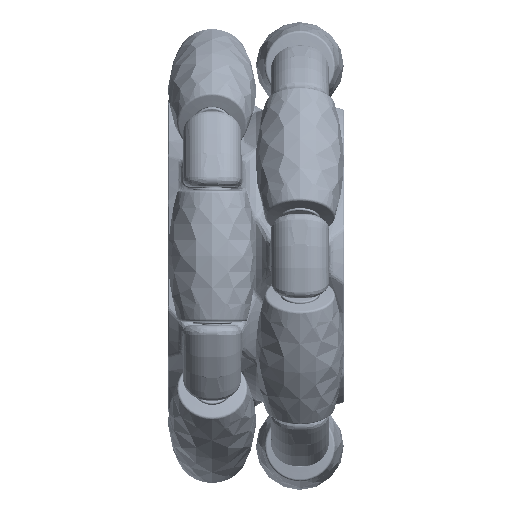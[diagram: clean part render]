
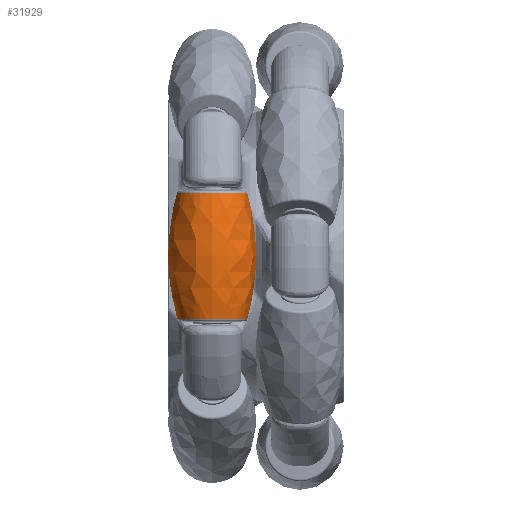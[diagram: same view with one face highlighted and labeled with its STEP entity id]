
A CAD part, left-side view. The second image highlights one B-rep face of the part: STEP entity #31929.
In plain terms, the highlighted free-form (B-spline) face has degree [2, 2] with [3, 9] control points.
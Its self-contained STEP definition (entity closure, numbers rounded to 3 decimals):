
#102=(
BOUNDED_SURFACE()
B_SPLINE_SURFACE(2,2,((#70117,#70118,#70119,#70120,#70121,#70122,#70123,
#70124,#70125),(#70126,#70127,#70128,#70129,#70130,#70131,#70132,#70133,
#70134),(#70135,#70136,#70137,#70138,#70139,#70140,#70141,#70142,#70143)),
 .UNSPECIFIED.,.F.,.T.,.F.)
B_SPLINE_SURFACE_WITH_KNOTS((3,3),(3,2,2,2,3),(-0.275,0.275),
(-3.142,-1.571,0.,1.571,3.142),
 .UNSPECIFIED.)
GEOMETRIC_REPRESENTATION_ITEM()
RATIONAL_B_SPLINE_SURFACE(((1.,0.707,1.,0.707,1.,
0.707,1.,0.707,1.),(0.963,0.681,
0.963,0.681,0.963,0.681,0.963,
0.681,0.963),(1.,0.707,1.,0.707,
1.,0.707,1.,0.707,1.)))
REPRESENTATION_ITEM('')
SURFACE()
);
#7102=FACE_OUTER_BOUND('',#9043,.T.);
#9043=EDGE_LOOP('',(#29483,#29484,#29485,#29486));
#12110=CIRCLE('',#35186,3.6);
#12134=CIRCLE('',#35225,3.6);
#12136=CIRCLE('',#35227,24.);
#15182=VERTEX_POINT('',#70052);
#15198=VERTEX_POINT('',#70114);
#19946=EDGE_CURVE('',#15182,#15182,#12110,.T.);
#19977=EDGE_CURVE('',#15198,#15198,#12134,.T.);
#19979=EDGE_CURVE('',#15182,#15198,#12136,.T.);
#29483=ORIENTED_EDGE('',*,*,#19946,.F.);
#29484=ORIENTED_EDGE('',*,*,#19979,.T.);
#29485=ORIENTED_EDGE('',*,*,#19977,.T.);
#29486=ORIENTED_EDGE('',*,*,#19979,.F.);
#31929=ADVANCED_FACE('',(#7102),#102,.F.);
#35186=AXIS2_PLACEMENT_3D('',#70053,#43272,#43273);
#35225=AXIS2_PLACEMENT_3D('',#70115,#43357,#43358);
#35227=AXIS2_PLACEMENT_3D('',#70144,#43361,#43362);
#43272=DIRECTION('center_axis',(1.,0.,0.));
#43273=DIRECTION('ref_axis',(0.,0.,-1.));
#43357=DIRECTION('center_axis',(1.,0.,0.));
#43358=DIRECTION('ref_axis',(0.,0.,-1.));
#43361=DIRECTION('center_axis',(0.,-1.,0.));
#43362=DIRECTION('ref_axis',(0.,0.,
1.));
#70052=CARTESIAN_POINT('',(6.509,-4.5,23.1));
#70053=CARTESIAN_POINT('Origin',(6.509,-4.5,19.5));
#70114=CARTESIAN_POINT('',(-6.509,-4.5,23.1));
#70115=CARTESIAN_POINT('Origin',(-6.509,-4.5,19.5));
#70117=CARTESIAN_POINT('Ctrl Pts',(-6.509,-4.5,23.1));
#70118=CARTESIAN_POINT('Ctrl Pts',(-6.509,-8.1,
23.1));
#70119=CARTESIAN_POINT('Ctrl Pts',(-6.509,-8.1,
19.5));
#70120=CARTESIAN_POINT('Ctrl Pts',(-6.509,-8.1,
15.9));
#70121=CARTESIAN_POINT('Ctrl Pts',(-6.509,-4.5,15.9));
#70122=CARTESIAN_POINT('Ctrl Pts',(-6.509,-0.9,
15.9));
#70123=CARTESIAN_POINT('Ctrl Pts',(-6.509,-0.9,
19.5));
#70124=CARTESIAN_POINT('Ctrl Pts',(-6.509,-0.9,
23.1));
#70125=CARTESIAN_POINT('Ctrl Pts',(-6.509,-4.5,23.1));
#70126=CARTESIAN_POINT('Ctrl Pts',(0.,-4.5,24.935));
#70127=CARTESIAN_POINT('Ctrl Pts',(0.,-9.935,
24.935));
#70128=CARTESIAN_POINT('Ctrl Pts',(0.,-9.935,
19.5));
#70129=CARTESIAN_POINT('Ctrl Pts',(0.,-9.935,
14.065));
#70130=CARTESIAN_POINT('Ctrl Pts',(0.,-4.5,14.065));
#70131=CARTESIAN_POINT('Ctrl Pts',(0.,0.935,
14.065));
#70132=CARTESIAN_POINT('Ctrl Pts',(0.,0.935,
19.5));
#70133=CARTESIAN_POINT('Ctrl Pts',(0.,0.935,
24.935));
#70134=CARTESIAN_POINT('Ctrl Pts',(0.,-4.5,24.935));
#70135=CARTESIAN_POINT('Ctrl Pts',(6.509,-4.5,23.1));
#70136=CARTESIAN_POINT('Ctrl Pts',(6.509,-8.1,23.1));
#70137=CARTESIAN_POINT('Ctrl Pts',(6.509,-8.1,19.5));
#70138=CARTESIAN_POINT('Ctrl Pts',(6.509,-8.1,15.9));
#70139=CARTESIAN_POINT('Ctrl Pts',(6.509,-4.5,15.9));
#70140=CARTESIAN_POINT('Ctrl Pts',(6.509,-0.9,
15.9));
#70141=CARTESIAN_POINT('Ctrl Pts',(6.509,-0.9,
19.5));
#70142=CARTESIAN_POINT('Ctrl Pts',(6.509,-0.9,
23.1));
#70143=CARTESIAN_POINT('Ctrl Pts',(6.509,-4.5,23.1));
#70144=CARTESIAN_POINT('Origin',(0.,-4.5,0.));
